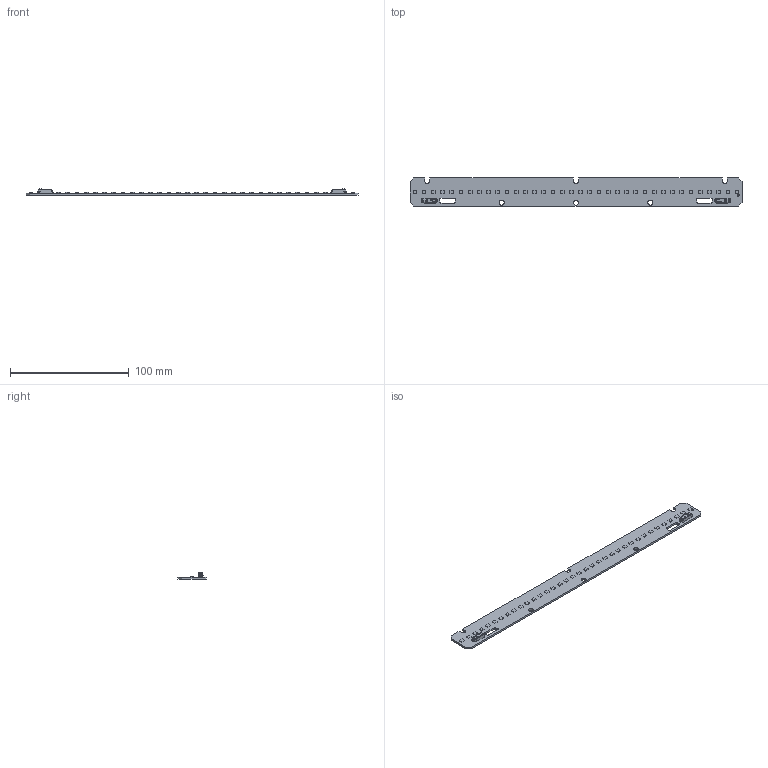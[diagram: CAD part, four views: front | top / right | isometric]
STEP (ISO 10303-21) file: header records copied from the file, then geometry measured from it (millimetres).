
FILE_DESCRIPTION((''),'2;1');
FILE_NAME('16208800_LLE-G5-24X280-2000LM','2018-07-17T08:39:43',('bernhard.fink'),(''),'CREO PARAMETRIC BY PTC INC, 2017380','CREO PARAMETRIC BY PTC INC, 2017380','');
FILE_SCHEMA(('AUTOMOTIVE_DESIGN { 1 0 10303 214 1 1 1 1 }'));
Length unit declared in the file: millimetre
Products named in the file (1): 16208800_LLE-G5-24X280-2000LM
Bounding box: 279 x 23.6 x 5.1 mm (x, y, z)
Volume: 10900.3 mm3; surface area: 14545.7 mm2
Topology: 1 solids, 1 shells, 718 faces, 1830 edges, 1153 vertices
Faces by surface type: plane 392, cylinder 146, bspline 120, cone 34, torus 14, sphere 12
Entity records: 36913 total; most frequent: CARTESIAN_POINT 9772, ORIENTED_EDGE 3632, DIRECTION 2840, PRESENTATION_STYLE_ASSIGNMENT 2535, STYLED_ITEM 1817, CURVE_STYLE 1816, EDGE_CURVE 1816, VECTOR 1156
